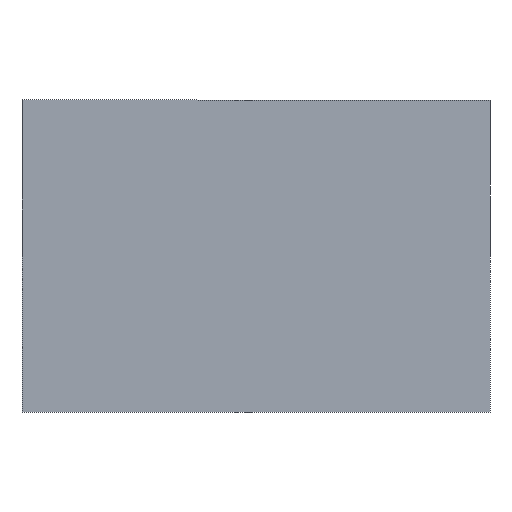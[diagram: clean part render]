
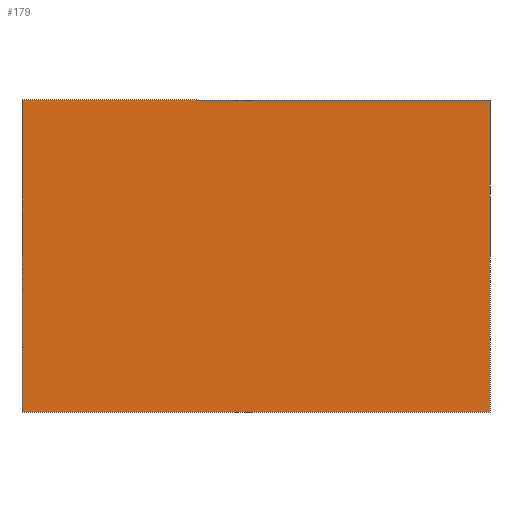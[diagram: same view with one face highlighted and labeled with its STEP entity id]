
A CAD part, front view. The second image highlights one B-rep face of the part: STEP entity #179.
In plain terms, the highlighted planar face has unit normal (0, -1, 0).
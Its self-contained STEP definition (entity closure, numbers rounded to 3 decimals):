
#21 = VERTEX_POINT ( 'NONE', #53 ) ;
#25 = DIRECTION ( 'NONE',  ( 1., 0., 0. ) ) ;
#34 = VERTEX_POINT ( 'NONE', #54 ) ;
#37 = VERTEX_POINT ( 'NONE', #60 ) ;
#42 = VECTOR ( 'NONE', #218, 1000. ) ;
#47 = VECTOR ( 'NONE', #165, 1000. ) ;
#53 = CARTESIAN_POINT ( 'NONE',  ( 150., 0., 100. ) ) ;
#54 = CARTESIAN_POINT ( 'NONE',  ( 150., 0., -100. ) ) ;
#57 = CARTESIAN_POINT ( 'NONE',  ( 150., 0., 100. ) ) ;
#60 = CARTESIAN_POINT ( 'NONE',  ( -150., 0., 100. ) ) ;
#66 = ORIENTED_EDGE ( 'NONE', *, *, #217, .F. ) ;
#67 = LINE ( 'NONE', #57, #123 ) ;
#84 = FACE_OUTER_BOUND ( 'NONE', #127, .T. ) ;
#85 = ORIENTED_EDGE ( 'NONE', *, *, #184, .F. ) ;
#88 = CARTESIAN_POINT ( 'NONE',  ( -150., 0., -100. ) ) ;
#106 = VERTEX_POINT ( 'NONE', #88 ) ;
#123 = VECTOR ( 'NONE', #25, 1000. ) ;
#125 = ORIENTED_EDGE ( 'NONE', *, *, #221, .F. ) ;
#127 = EDGE_LOOP ( 'NONE', ( #162, #85, #66, #125 ) ) ;
#128 = DIRECTION ( 'NONE',  ( 0., 0., 1. ) ) ;
#132 = CARTESIAN_POINT ( 'NONE',  ( 150., 0., 100. ) ) ;
#135 = CARTESIAN_POINT ( 'NONE',  ( -150., 0., 100. ) ) ;
#149 = LINE ( 'NONE', #163, #42 ) ;
#153 = LINE ( 'NONE', #135, #178 ) ;
#161 = PLANE ( 'NONE',  #199 ) ;
#162 = ORIENTED_EDGE ( 'NONE', *, *, #213, .F. ) ;
#163 = CARTESIAN_POINT ( 'NONE',  ( 150., 0., -100. ) ) ;
#164 = CARTESIAN_POINT ( 'NONE',  ( 0., 0., 0. ) ) ;
#165 = DIRECTION ( 'NONE',  ( 0., 0., -1. ) ) ;
#178 = VECTOR ( 'NONE', #229, 1000. ) ;
#179 = ADVANCED_FACE ( 'NONE', ( #84 ), #161, .F. ) ;
#184 = EDGE_CURVE ( 'NONE', #34, #106, #149, .T. ) ;
#199 = AXIS2_PLACEMENT_3D ( 'NONE', #164, #228, #128 ) ;
#213 = EDGE_CURVE ( 'NONE', #106, #37, #153, .T. ) ;
#217 = EDGE_CURVE ( 'NONE', #21, #34, #230, .T. ) ;
#218 = DIRECTION ( 'NONE',  ( -1., 0., 0. ) ) ;
#221 = EDGE_CURVE ( 'NONE', #37, #21, #67, .T. ) ;
#228 = DIRECTION ( 'NONE',  ( 0., 1., 0. ) ) ;
#229 = DIRECTION ( 'NONE',  ( 0., 0., 1. ) ) ;
#230 = LINE ( 'NONE', #132, #47 ) ;
